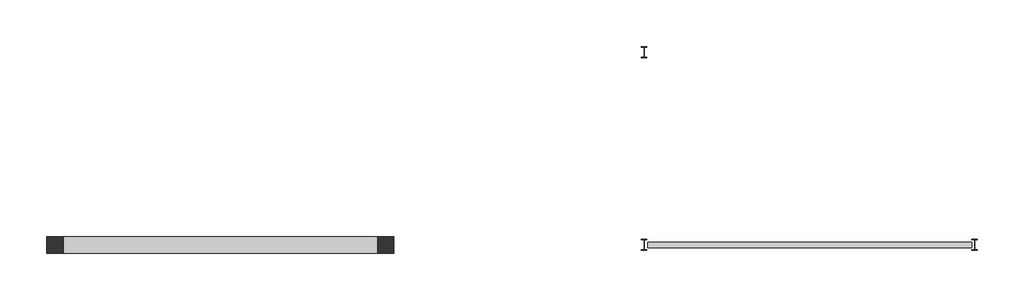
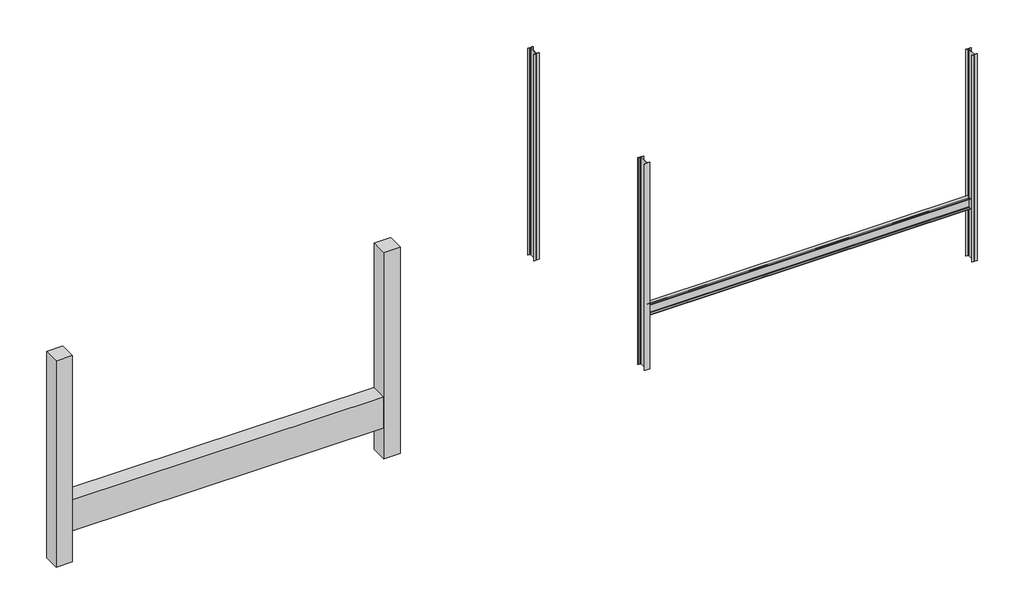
# One storey: 5 columns, 2 beams.
"""IFC4 building model written with IfcOpenShell, lengths in millimetres."""

from ifc_helpers import new_model, si_unit, point, frame, frame_2d, origin, origin_with_axes, place, context, project, spatial, polyline, circle_curve, trimmed, segment, composite_curve, outline, extrude, element, save

model = new_model("IFC4")

# Units and contexts
model_context = context("Model", 3, world=origin())
ifc_project = project(units=[si_unit("LENGTHUNIT", "METRE", prefix="MILLI")], contexts=[model_context])

# Site, building, storey
site = spatial("IfcSite", under=ifc_project)
building = spatial("IfcBuilding", under=site)
storey = spatial("IfcBuildingStorey", under=building, Name="Уровень 1", Elevation=0.0)

# Beams
placement = place(None, origin())
element("IfcBeam", 1, ObjectType="Бетон-Балка прямоугольного сечения : 300 x 600 мм", at=placement, inside=storey, context=model_context, shape_type="SweptSolid", body=[
    extrude(outline(polyline([(-13139.3146955, 5516.056696), (-13139.3146955, 5816.056696), (-7439.3146955, 5816.056696), (-7439.3146955, 5516.056696), (-13139.3146955, 5516.056696)])), frame((0.0, 0.0, 600.0), z_axis=(0.0, 0.0, 1.0), x_axis=(1.0, 0.0, 0.0)), (0.0, 0.0, 1.0), 600.0),
])
element("IfcBeam", 2, ObjectType="Двутавровая балка с параллельными гранями полок типа Б (ТУ 14-2-24-72) Балки : I 20B1", at=placement, inside=storey, context=model_context, shape_type="SweptSolid", body=[
    extrude(outline(composite_curve([segment(polyline([(5716.056696, 1009.6), (5716.056696, 1002.0), (5616.056696, 1002.0), (5616.056696, 1009.6), (5652.456696, 1009.6)]), True, "CONTINUOUS"), segment(trimmed(circle_curve(frame_2d((5652.456696, 1020.6)), 11.0), [point((5652.456696, 1009.6))], [point((5663.456696, 1020.6))], True, "CARTESIAN"), True, "CONTINUOUS"), segment(polyline([(5663.456696, 1020.6), (5663.456696, 1181.4)]), True, "CONTINUOUS"), segment(trimmed(circle_curve(frame_2d((5652.456696, 1181.4)), 11.0), [point((5663.456696, 1181.4))], [point((5652.456696, 1192.4))], True, "CARTESIAN"), True, "CONTINUOUS"), segment(polyline([(5652.456696, 1192.4), (5616.056696, 1192.4), (5616.056696, 1200.0), (5716.056696, 1200.0), (5716.056696, 1192.4), (5679.656696, 1192.4)]), True, "CONTINUOUS"), segment(trimmed(circle_curve(frame_2d((5679.656696, 1181.4)), 11.0), [point((5679.656696, 1192.4))], [point((5668.656696, 1181.4))], True, "CARTESIAN"), True, "CONTINUOUS"), segment(polyline([(5668.656696, 1181.4), (5668.656696, 1020.6)]), True, "CONTINUOUS"), segment(trimmed(circle_curve(frame_2d((5679.656696, 1020.6)), 11.0), [point((5668.656696, 1020.6))], [point((5679.656696, 1009.6))], True, "CARTESIAN"), True, "CONTINUOUS"), segment(polyline([(5679.656696, 1009.6), (5716.056696, 1009.6)]), True, "CONTINUOUS")], self_intersect=False)), frame((-2526.3146955, 0.0, 0.0), z_axis=(1.0, 0.0, 0.0), x_axis=(0.0, 1.0, 0.0)), (0.0, 0.0, 1.0), 5887.0),
])

# Columns
element("IfcColumn", 3, ObjectType="Бетон-Квадратного сечения-Колонна : 300 x 300 мм", at=placement, inside=storey, context=model_context, shape_type="SweptSolid", body=[
    extrude(outline(polyline([(-13139.3146955, 5816.056696), (-13139.3146955, 5516.056696), (-13439.3146955, 5516.056696), (-13439.3146955, 5816.056696), (-13139.3146955, 5816.056696)])), origin_with_axes(), (0.0, 0.0, 1.0), 4000.0),
])
element("IfcColumn", 4, ObjectType="Бетон-Квадратного сечения-Колонна : 300 x 300 мм", at=placement, inside=storey, context=model_context, shape_type="SweptSolid", body=[
    extrude(outline(polyline([(-7139.3146955, 5816.056696), (-7139.3146955, 5516.056696), (-7439.3146955, 5516.056696), (-7439.3146955, 5816.056696), (-7139.3146955, 5816.056696)])), origin_with_axes(), (0.0, 0.0, 1.0), 4000.0),
])
element("IfcColumn", 5, ObjectType="Двутавровая балка с непараллельными гранями полок (ГОСТ 8239-72)-Колонна : I 20", at=placement, inside=storey, context=model_context, shape_type="SweptSolid", body=[
    extrude(outline(composite_curve([segment(polyline([(-2639.3146955, 5757.656696), (-2639.3146955, 5766.056696), (-2539.3146955, 5766.056696), (-2539.3146955, 5757.656696), (-2577.2146955, 5757.656696)]), True, "CONTINUOUS"), segment(trimmed(circle_curve(frame_2d((-2577.2146955, 5748.156696)), 9.5), [point((-2577.2146955, 5757.656696))], [point((-2586.7146955, 5748.156696))], True, "CARTESIAN"), True, "CONTINUOUS"), segment(polyline([(-2586.7146955, 5748.156696), (-2586.7146955, 5583.956696)]), True, "CONTINUOUS"), segment(trimmed(circle_curve(frame_2d((-2577.2146955, 5583.956696)), 9.5), [point((-2586.7146955, 5583.956696))], [point((-2577.2146955, 5574.456696))], True, "CARTESIAN"), True, "CONTINUOUS"), segment(polyline([(-2577.2146955, 5574.456696), (-2539.3146955, 5574.456696), (-2539.3146955, 5566.056696), (-2639.3146955, 5566.056696), (-2639.3146955, 5574.456696), (-2601.4146955, 5574.456696)]), True, "CONTINUOUS"), segment(trimmed(circle_curve(frame_2d((-2601.4146955, 5583.956696)), 9.5), [point((-2601.4146955, 5574.456696))], [point((-2591.9146955, 5583.956696))], True, "CARTESIAN"), True, "CONTINUOUS"), segment(polyline([(-2591.9146955, 5583.956696), (-2591.9146955, 5748.156696)]), True, "CONTINUOUS"), segment(trimmed(circle_curve(frame_2d((-2601.4146955, 5748.156696)), 9.5), [point((-2591.9146955, 5748.156696))], [point((-2601.4146955, 5757.656696))], True, "CARTESIAN"), True, "CONTINUOUS"), segment(polyline([(-2601.4146955, 5757.656696), (-2639.3146955, 5757.656696)]), True, "CONTINUOUS")], self_intersect=False)), origin_with_axes(), (0.0, 0.0, 1.0), 4000.0),
])
element("IfcColumn", 6, ObjectType="Двутавровая балка с непараллельными гранями полок (ГОСТ 8239-72)-Колонна : I 20", at=placement, inside=storey, context=model_context, shape_type="SweptSolid", body=[
    extrude(outline(composite_curve([segment(polyline([(3360.6853045, 5757.656696), (3360.6853045, 5766.056696), (3460.6853045, 5766.056696), (3460.6853045, 5757.656696), (3422.7853045, 5757.656696)]), True, "CONTINUOUS"), segment(trimmed(circle_curve(frame_2d((3422.7853045, 5748.156696)), 9.5), [point((3422.7853045, 5757.656696))], [point((3413.2853045, 5748.156696))], True, "CARTESIAN"), True, "CONTINUOUS"), segment(polyline([(3413.2853045, 5748.156696), (3413.2853045, 5583.956696)]), True, "CONTINUOUS"), segment(trimmed(circle_curve(frame_2d((3422.7853045, 5583.956696)), 9.5), [point((3413.2853045, 5583.956696))], [point((3422.7853045, 5574.456696))], True, "CARTESIAN"), True, "CONTINUOUS"), segment(polyline([(3422.7853045, 5574.456696), (3460.6853045, 5574.456696), (3460.6853045, 5566.056696), (3360.6853045, 5566.056696), (3360.6853045, 5574.456696), (3398.5853045, 5574.456696)]), True, "CONTINUOUS"), segment(trimmed(circle_curve(frame_2d((3398.5853045, 5583.956696)), 9.5), [point((3398.5853045, 5574.456696))], [point((3408.0853045, 5583.956696))], True, "CARTESIAN"), True, "CONTINUOUS"), segment(polyline([(3408.0853045, 5583.956696), (3408.0853045, 5748.156696)]), True, "CONTINUOUS"), segment(trimmed(circle_curve(frame_2d((3398.5853045, 5748.156696)), 9.5), [point((3408.0853045, 5748.156696))], [point((3398.5853045, 5757.656696))], True, "CARTESIAN"), True, "CONTINUOUS"), segment(polyline([(3398.5853045, 5757.656696), (3360.6853045, 5757.656696)]), True, "CONTINUOUS")], self_intersect=False)), origin_with_axes(), (0.0, 0.0, 1.0), 4000.0),
])
element("IfcColumn", 7, ObjectType="Двутавровая балка с непараллельными гранями полок (ГОСТ 8239-72)-Колонна : I 20", at=placement, inside=storey, context=model_context, shape_type="SweptSolid", body=[
    extrude(outline(composite_curve([segment(polyline([(-2639.3146955, 9257.656696), (-2639.3146955, 9266.056696), (-2539.3146955, 9266.056696), (-2539.3146955, 9257.656696), (-2577.2146955, 9257.656696)]), True, "CONTINUOUS"), segment(trimmed(circle_curve(frame_2d((-2577.2146955, 9248.156696)), 9.5), [point((-2577.2146955, 9257.656696))], [point((-2586.7146955, 9248.156696))], True, "CARTESIAN"), True, "CONTINUOUS"), segment(polyline([(-2586.7146955, 9248.156696), (-2586.7146955, 9083.956696)]), True, "CONTINUOUS"), segment(trimmed(circle_curve(frame_2d((-2577.2146955, 9083.956696)), 9.5), [point((-2586.7146955, 9083.956696))], [point((-2577.2146955, 9074.456696))], True, "CARTESIAN"), True, "CONTINUOUS"), segment(polyline([(-2577.2146955, 9074.456696), (-2539.3146955, 9074.456696), (-2539.3146955, 9066.056696), (-2639.3146955, 9066.056696), (-2639.3146955, 9074.456696), (-2601.4146955, 9074.456696)]), True, "CONTINUOUS"), segment(trimmed(circle_curve(frame_2d((-2601.4146955, 9083.956696)), 9.5), [point((-2601.4146955, 9074.456696))], [point((-2591.9146955, 9083.956696))], True, "CARTESIAN"), True, "CONTINUOUS"), segment(polyline([(-2591.9146955, 9083.956696), (-2591.9146955, 9248.156696)]), True, "CONTINUOUS"), segment(trimmed(circle_curve(frame_2d((-2601.4146955, 9248.156696)), 9.5), [point((-2591.9146955, 9248.156696))], [point((-2601.4146955, 9257.656696))], True, "CARTESIAN"), True, "CONTINUOUS"), segment(polyline([(-2601.4146955, 9257.656696), (-2639.3146955, 9257.656696)]), True, "CONTINUOUS")], self_intersect=False)), origin_with_axes(), (0.0, 0.0, 1.0), 4000.0),
])

save(model, "model.ifc")
